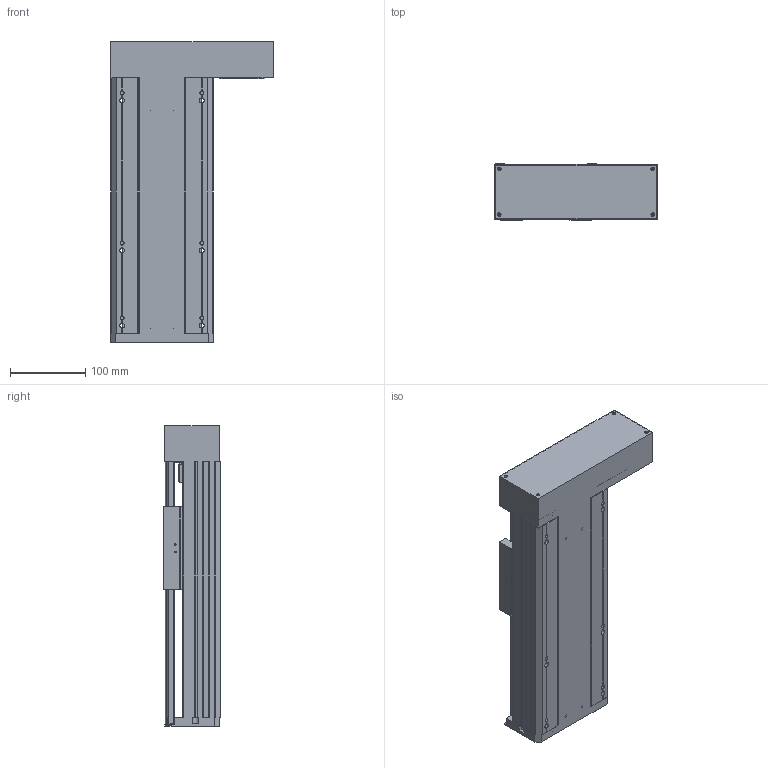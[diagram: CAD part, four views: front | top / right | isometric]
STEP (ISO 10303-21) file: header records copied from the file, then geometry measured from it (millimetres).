
FILE_DESCRIPTION(/* description */ (''),/* implementation_level */ '2;1');
FILE_NAME(/* name */ 'TKA136-FR-150_asm1.stp',/* time_stamp */ '2016-05-07T14:06:08+08:00',/* author */ (''),/* organization */ (''),/* preprocessor_version */ 'ST-DEVELOPER v15',/* originating_system */ 'SIEMENS PLM Software NX 8.5',/* authorisation */ '');
FILE_SCHEMA (('AUTOMOTIVE_DESIGN { 1 0 10303 214 3 1 1 1 }'));
Length unit declared in the file: millimetre
Products named in the file (3): 100-02; 100-01; TKA136-FR-150_asm1
Assembly tree (2 placements, depth 2):
  TKA136-FR-150_asm1
    100-01
    100-02
Bounding box: 216 x 75 x 400 mm (x, y, z)
Volume: 1511361.9 mm3; surface area: 589895.5 mm2
Topology: 2 solids, 12 shells, 849 faces, 2344 edges, 1533 vertices
Faces by surface type: plane 411, cylinder 385, cone 53
Full cylindrical faces by diameter (mm): 2.5 x4, 3 x2, 3.3 x15, 4 x4, 4.2 x14, 4.5 x26, 5 x10, 5.5 x26, 6.6 x10, 8 x20, 10 x9, 10.5 x6, 11 x4, 11.6 x1, 12 x9, 15 x3, 16 x5, 17 x1, 24 x5, 26 x1, 28 x1, 46 x2, 50 x1
Entity records: 27705 total; most frequent: CARTESIAN_POINT 7112, DIRECTION 4307, ORIENTED_EDGE 3946, EDGE_CURVE 1973, AXIS2_PLACEMENT_3D 1637, VERTEX_POINT 1419, EDGE_LOOP 1245, LINE 1033
